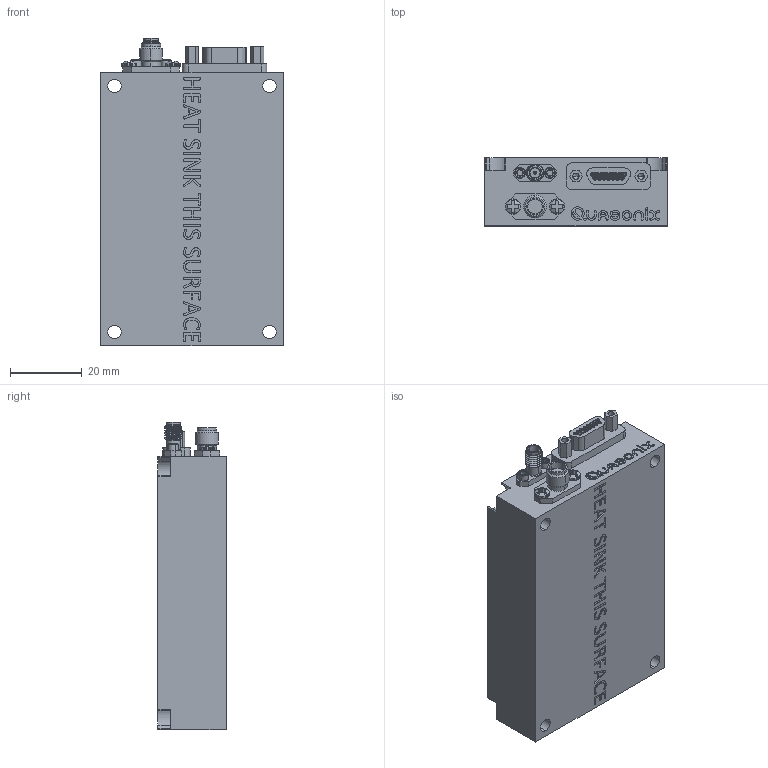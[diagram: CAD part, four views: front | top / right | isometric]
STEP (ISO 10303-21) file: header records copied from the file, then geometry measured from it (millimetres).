
FILE_DESCRIPTION (( 'STEP AP203' ), '1' );
FILE_NAME ('QS-TX-04ALXXX.STEP', '2020-10-08T13:12:01', ( '' ), ( '' ), 'SwSTEP 2.0', 'SolidWorks 2018', '' );
FILE_SCHEMA (( 'CONFIG_CONTROL_DESIGN' ));
Length unit declared in the file: millimetre
Products named in the file (1): QS-TX-04ALXXX
Bounding box: 50.8 x 19.05 x 85.72 mm (x, y, z)
Volume: 73887 mm3; surface area: 15466.4 mm2
Topology: 10 solids, 10 shells, 916 faces, 2390 edges, 1559 vertices
Faces by surface type: plane 340, bspline 300, cylinder 218, cone 42, torus 12, sphere 4
Entity records: 39786 total; most frequent: CARTESIAN_POINT 18847, ORIENTED_EDGE 4708, DIRECTION 3628, EDGE_CURVE 2354, VERTEX_POINT 1559, AXIS2_PLACEMENT_3D 1232, VECTOR 1164, LINE 1164
